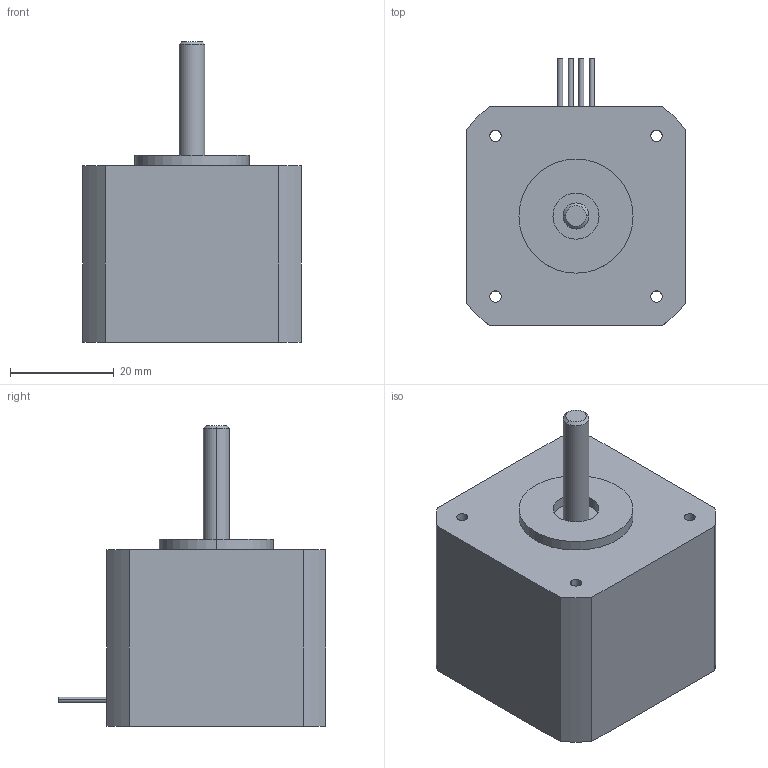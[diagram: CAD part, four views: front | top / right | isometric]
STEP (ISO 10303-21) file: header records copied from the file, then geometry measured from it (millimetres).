
FILE_DESCRIPTION((''),'2;1');
FILE_NAME('C:\Documents and Settings\rbadgerow\Desktop\webmodelmain\web step 3d\4118s\4118s s.stp','2005-05-12T07:30:49',('rbadgerow'),(''),'Autodesk Inventor 9','Autodesk Inventor 9','');
FILE_SCHEMA(('AUTOMOTIVE_DESIGN { 1 0 10303 214 1 1 1 1 }'));
Length unit declared in the file: inch
Products named in the file (1): 4118s s
Bounding box: 42.16 x 51.56 x 57.91 mm (x, y, z)
Volume: 59936.5 mm3; surface area: 10478.6 mm2
Topology: 1 solids, 1 shells, 44 faces, 100 edges, 66 vertices
Faces by surface type: cylinder 28, plane 14, cone 2
Entity records: 1307 total; most frequent: DIRECTION 248, CARTESIAN_POINT 211, ORIENTED_EDGE 200, AXIS2_PLACEMENT_3D 103, EDGE_CURVE 100, VERTEX_POINT 66, EDGE_LOOP 60, CIRCLE 58
